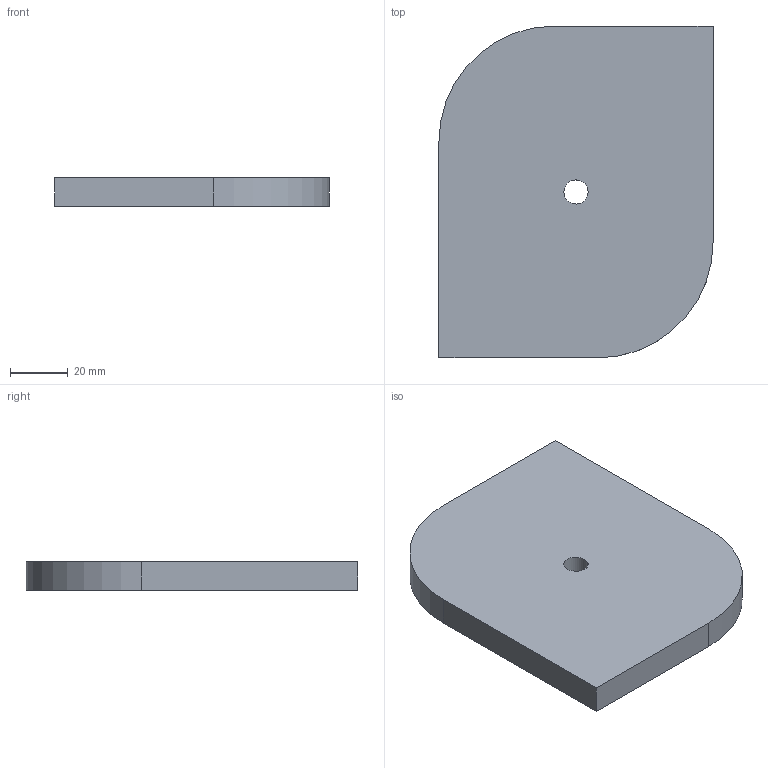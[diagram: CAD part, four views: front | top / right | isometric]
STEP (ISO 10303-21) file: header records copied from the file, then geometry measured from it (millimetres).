
FILE_DESCRIPTION(('CATIA V5 STEP Exchange'),'2;1');
FILE_NAME('C:\_Andres\UNIVERSIDAD\IQS\ASIGNATURAS\DAO\EXF\EXF-15161c\1original\Elvira_Arias_Ej01-plano_v5.stp','2016-03-04T14:59:43+00:00',('none'),('none'),'CATIA Version 5 Release 20 SP 1 (IN-10)','CATIA V5 STEP AP203','none');
FILE_SCHEMA(('CONFIG_CONTROL_DESIGN'));
Length unit declared in the file: millimetre
Products named in the file (1): Elvira_Arias_Ej01-plano_v5
Bounding box: 95 x 115 x 10 mm (x, y, z)
Volume: 101831.7 mm3; surface area: 24486.1 mm2
Topology: 1 solids, 1 shells, 10 faces, 24 edges, 16 vertices
Faces by surface type: plane 6, cylinder 4
Entity records: 333 total; most frequent: CARTESIAN_POINT 51, ORIENTED_EDGE 48, DIRECTION 44, EDGE_CURVE 24, AXIS2_PLACEMENT_3D 19, VECTOR 16, LINE 16, VERTEX_POINT 16
